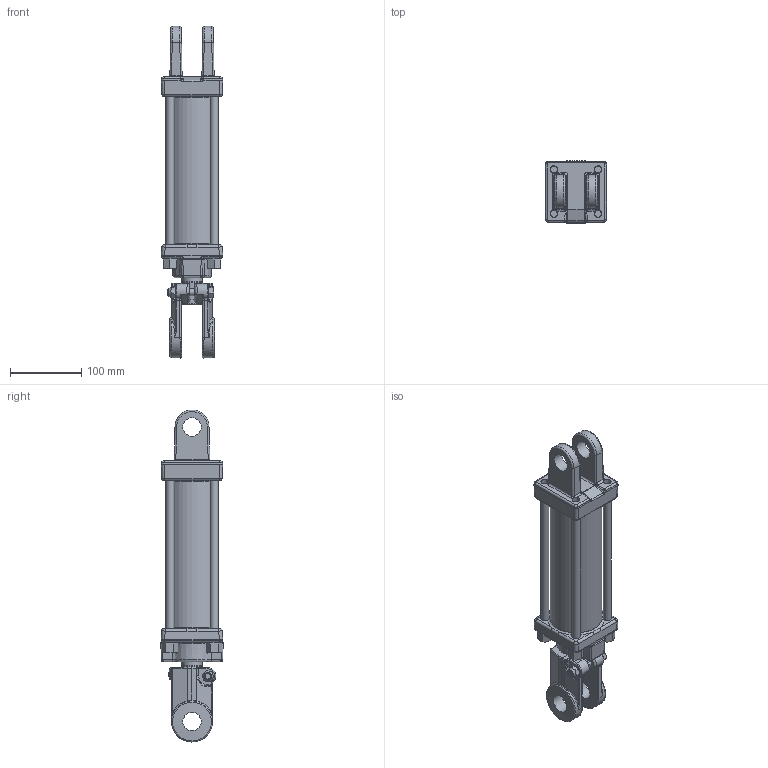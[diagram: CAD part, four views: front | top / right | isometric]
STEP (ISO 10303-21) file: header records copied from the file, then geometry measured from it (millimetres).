
FILE_DESCRIPTION((''),'2;1');
FILE_NAME('C:\Vault\Workspace\RefDataCylinders\Standards\SAE-7000\SAE-7006.stp','2010-05-18T10:23:18',('kneifld'),(''),'Autodesk Inventor 2010','Autodesk Inventor 2010','');
FILE_SCHEMA(('AUTOMOTIVE_DESIGN { 1 0 10303 214 1 1 1 1 }'));
Length unit declared in the file: inch
Products named in the file (14): SAE-7006; 1413005SF; 051308063A; 010500004; 0071300004; 220000208; 081300146; 170201101; 220000105; 100000423; 100000422; 170002104; 220000203
Assembly tree (16 placements, depth 3):
  SAE-7006
    1413005SF
    051308063A
    010500004
    0071300004
    220000208
    081300146
    170201101  x4
      170201101
      220000105
    100000423
      100000422
      170002104
      220000203
Bounding box: 85.85 x 87.39 x 465.13 mm (x, y, z)
Volume: 1226935.9 mm3; surface area: 303330.7 mm2
Topology: 17 solids, 17 shells, 888 faces, 2128 edges, 1284 vertices
Faces by surface type: bspline 306, plane 253, cylinder 183, cone 101, torus 28, sphere 17
Full cylindrical faces by diameter (mm): 9.493 x1, 10.319 x2, 11.43 x4, 15.875 x2, 17.323 x2, 18.999 x1, 19.126 x1, 21.615 x1, 25.781 x4, 28.372 x1, 28.575 x1, 28.651 x2, 31.598 x1, 34.9 x1, 34.925 x2, 54.077 x1, 57.836 x1, 57.861 x1, 63.246 x4, 63.271 x2, 63.5 x1, 73.025 x1
Entity records: 40972 total; most frequent: CARTESIAN_POINT 23346, ORIENTED_EDGE 3660, DIRECTION 3016, EDGE_CURVE 1830, AXIS2_PLACEMENT_3D 1192, VERTEX_POINT 1163, EDGE_LOOP 967, FACE_OUTER_BOUND 804
